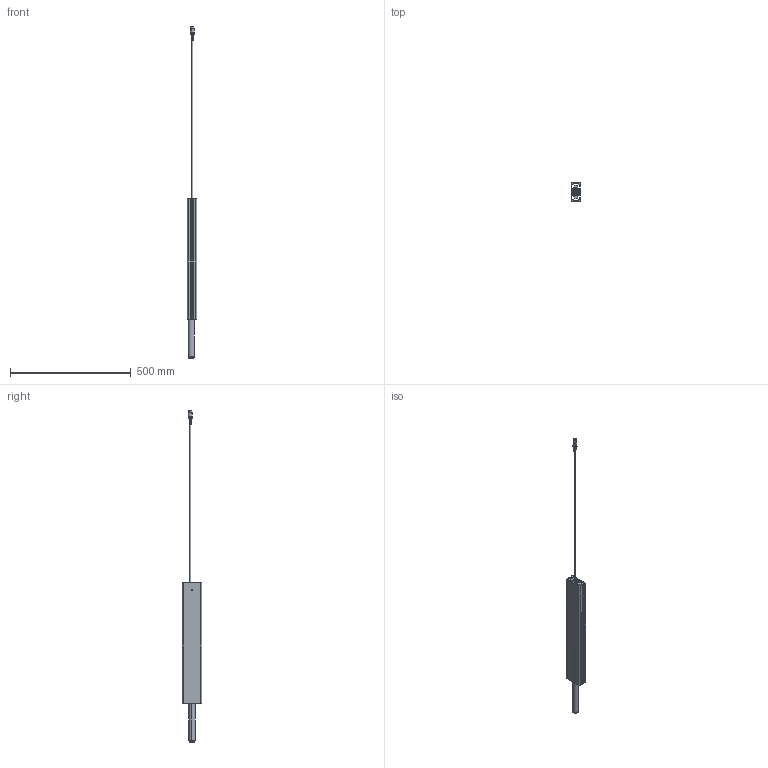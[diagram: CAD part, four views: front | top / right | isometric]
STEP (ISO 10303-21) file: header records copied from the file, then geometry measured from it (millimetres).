
FILE_DESCRIPTION (( 'STEP AP214' ), '1' );
FILE_NAME ('004 10268_ZB Actuator SMS-I-40x80_Hub150_ausgefahren.STEP', '2018-09-03T12:49:40', ( '' ), ( '' ), 'SwSTEP 2.0', 'SolidWorks 2017', '' );
FILE_SCHEMA (( 'AUTOMOTIVE_DESIGN' ));
Length unit declared in the file: millimetre
Products named in the file (1): 004 10268_ZB Actuator SMS-I-40x80_Hub150_ausgefahren
Bounding box: 40 x 80 x 1375.6 mm (x, y, z)
Surface area: 382103.5 mm2 (no closed solid volume)
Topology: 0 solids, 5 shells, 2847 faces, 7689 edges, 4710 vertices
Faces by surface type: bspline 910, plane 840, cylinder 679, cone 288, torus 85, sphere 45
Entity records: 161147 total; most frequent: CARTESIAN_POINT 85619, ORIENTED_EDGE 14906, DIRECTION 10443, EDGE_CURVE 7456, VERTEX_POINT 4704, AXIS2_PLACEMENT_3D 3996, EDGE_LOOP 2957, ADVANCED_FACE 2847
